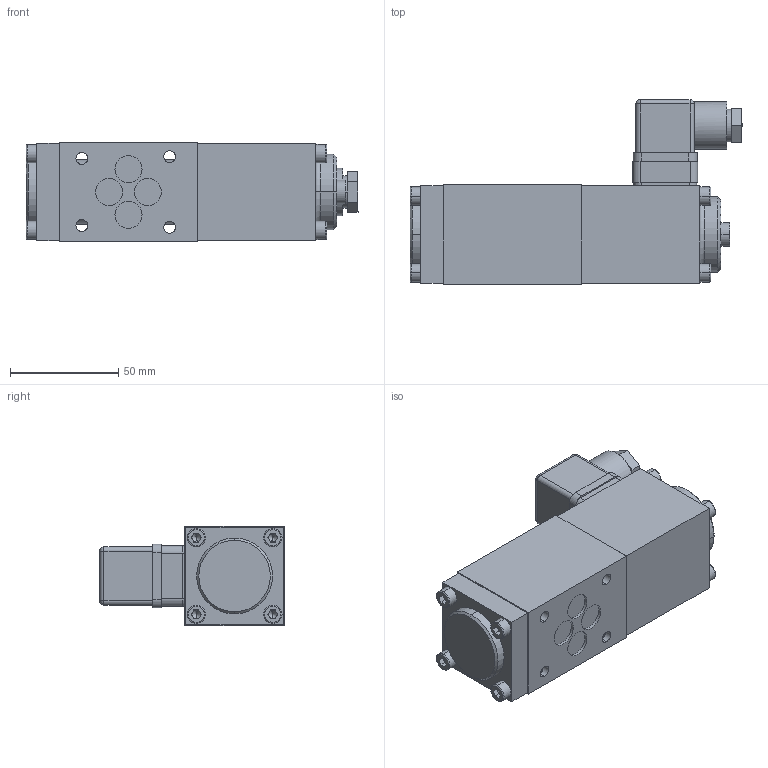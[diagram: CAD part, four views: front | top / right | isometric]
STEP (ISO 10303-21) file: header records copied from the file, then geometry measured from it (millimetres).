
FILE_DESCRIPTION (( 'STEP AP214' ), '1' );
FILE_NAME ('A.32040b.STEP', '2017-03-17T13:40:03', ( '' ), ( '' ), 'SwSTEP 2.0', 'SolidWorks 2016', '' );
FILE_SCHEMA (( 'AUTOMOTIVE_DESIGN' ));
Length unit declared in the file: millimetre
Products named in the file (1): A.32040b
Bounding box: 153.25 x 85.3 x 46 mm (x, y, z)
Volume: 303857.6 mm3; surface area: 58024.8 mm2
Topology: 10 solids, 14 shells, 749 faces, 1849 edges, 1156 vertices
Faces by surface type: plane 401, cylinder 225, cone 77, torus 34, bspline 12
Entity records: 31441 total; most frequent: CARTESIAN_POINT 5246, DIRECTION 3798, ORIENTED_EDGE 3614, EDGE_CURVE 1807, AXIS2_PLACEMENT_3D 1342, VERTEX_POINT 1156, LINE 1114, VECTOR 1114
